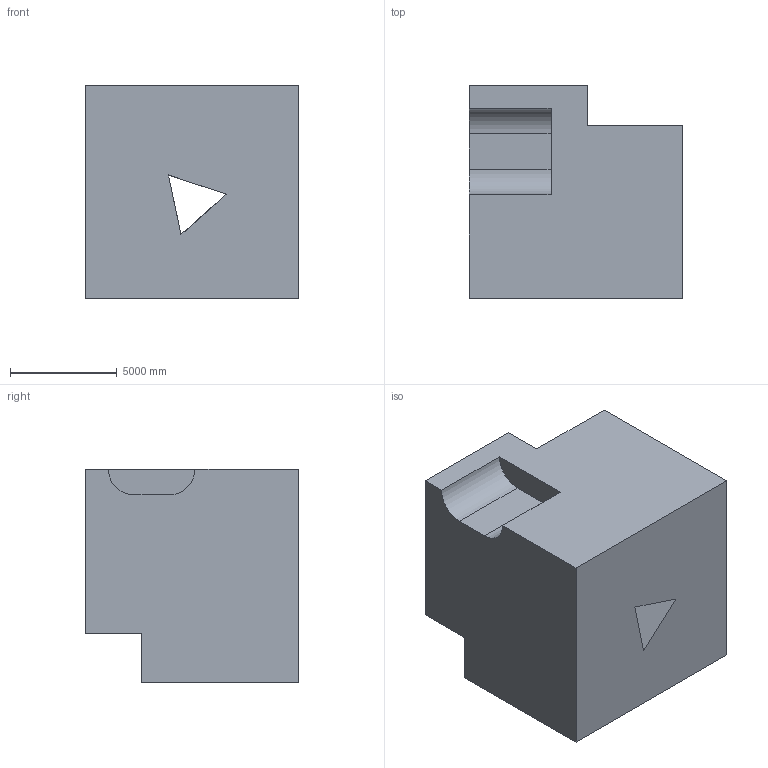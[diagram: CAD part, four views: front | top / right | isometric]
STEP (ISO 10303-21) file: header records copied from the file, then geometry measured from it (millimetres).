
FILE_DESCRIPTION (( 'STEP AP203' ), '1' );
FILE_NAME ('1408.STEP', '2022-08-18T14:18:01', ( 'user' ), ( '' ), 'SwSTEP 2.0', 'SolidWorks 2021', '' );
FILE_SCHEMA (( 'CONFIG_CONTROL_DESIGN' ));
Length unit declared in the file: centimetre
Products named in the file (1): 1408
Bounding box: 10000 x 10000 x 10000 mm (x, y, z)
Volume: 765928545940.2 mm3; surface area: 702915339.3 mm2
Topology: 1 solids, 1 shells, 28 faces, 81 edges, 54 vertices
Faces by surface type: plane 22, cylinder 6
Entity records: 1002 total; most frequent: CARTESIAN_POINT 200, ORIENTED_EDGE 162, DIRECTION 139, EDGE_CURVE 81, VECTOR 57, LINE 57, VERTEX_POINT 54, AXIS2_PLACEMENT_3D 41
